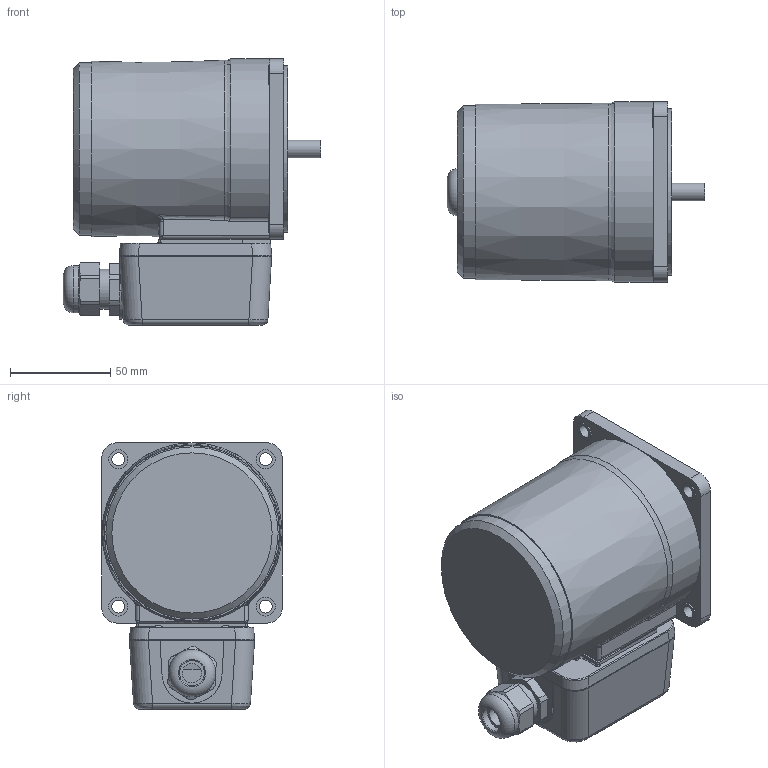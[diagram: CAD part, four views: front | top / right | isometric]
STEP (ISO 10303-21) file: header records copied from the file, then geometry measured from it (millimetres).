
FILE_DESCRIPTION((''),'2;1');
FILE_NAME('D:\STP파일\40W MOTOR\T BOX TYPE\S9(I,R)40G-T.stp','2013-05-20T17:57:51',('leebh'),(''),'Autodesk Inventor 2011','Autodesk Inventor 2011','');
FILE_SCHEMA(('AUTOMOTIVE_DESIGN { 1 0 10303 214 1 1 1 1 }'));
Length unit declared in the file: millimetre
Products named in the file (1): 부품3
Bounding box: 128.5 x 90 x 133 mm (x, y, z)
Volume: 851514.9 mm3; surface area: 70544.8 mm2
Topology: 1 solids, 9 shells, 368 faces, 905 edges, 574 vertices
Faces by surface type: plane 188, cylinder 109, bspline 49, torus 18, cone 4
Full cylindrical faces by diameter (mm): 2.55 x2, 5.6 x4, 6.3 x4, 6.5 x4, 8.7 x1, 9.5 x4, 12.5 x1, 15 x1, 20 x2, 21 x1, 23.6 x1, 40 x1, 83 x1, 86 x1
Entity records: 12639 total; most frequent: CARTESIAN_POINT 4065, ORIENTED_EDGE 1684, DIRECTION 1632, EDGE_CURVE 842, AXIS2_PLACEMENT_3D 588, VERTEX_POINT 562, VECTOR 456, LINE 456
